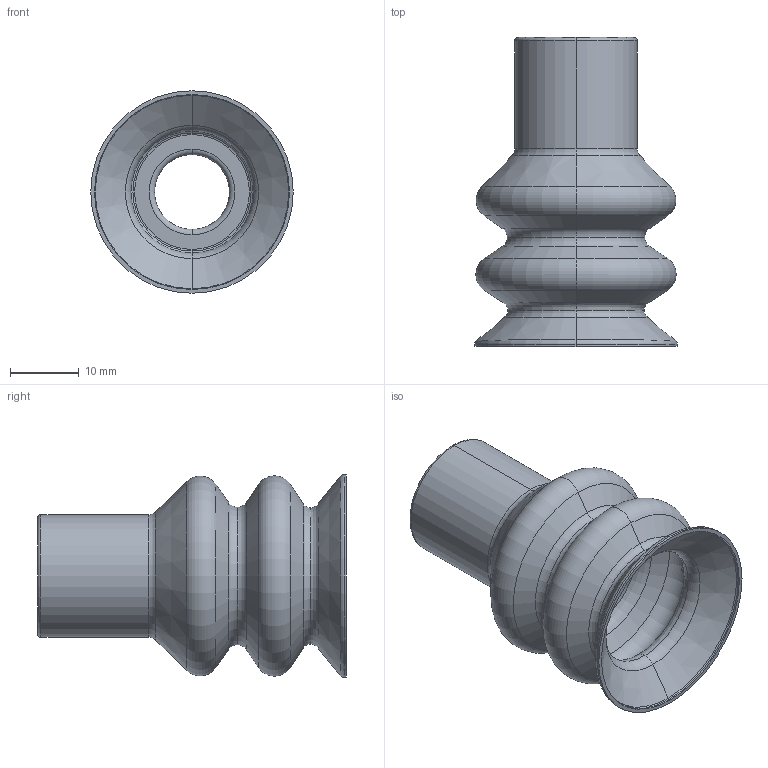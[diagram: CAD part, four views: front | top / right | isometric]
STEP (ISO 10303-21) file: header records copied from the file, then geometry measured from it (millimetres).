
FILE_DESCRIPTION (( 'STEP AP203' ), '1' );
FILE_NAME ('88A_30--A.STEP', '2017-05-30T09:16:33', ( '' ), ( '' ), 'SwSTEP 2.0', 'SolidWorks 2016', '' );
FILE_SCHEMA (( 'CONFIG_CONTROL_DESIGN' ));
Length unit declared in the file: millimetre
Products named in the file (1): 88A_30--A
Bounding box: 29.5 x 45 x 29.5 mm (x, y, z)
Volume: 5900.1 mm3; surface area: 7474.7 mm2
Topology: 1 solids, 1 shells, 97 faces, 224 edges, 124 vertices
Faces by surface type: torus 36, cylinder 26, cone 20, sphere 12, plane 3
Entity records: 2903 total; most frequent: CARTESIAN_POINT 644, DIRECTION 520, ORIENTED_EDGE 424, AXIS2_PLACEMENT_3D 240, EDGE_CURVE 212, CIRCLE 142, VERTEX_POINT 124, EDGE_LOOP 106
